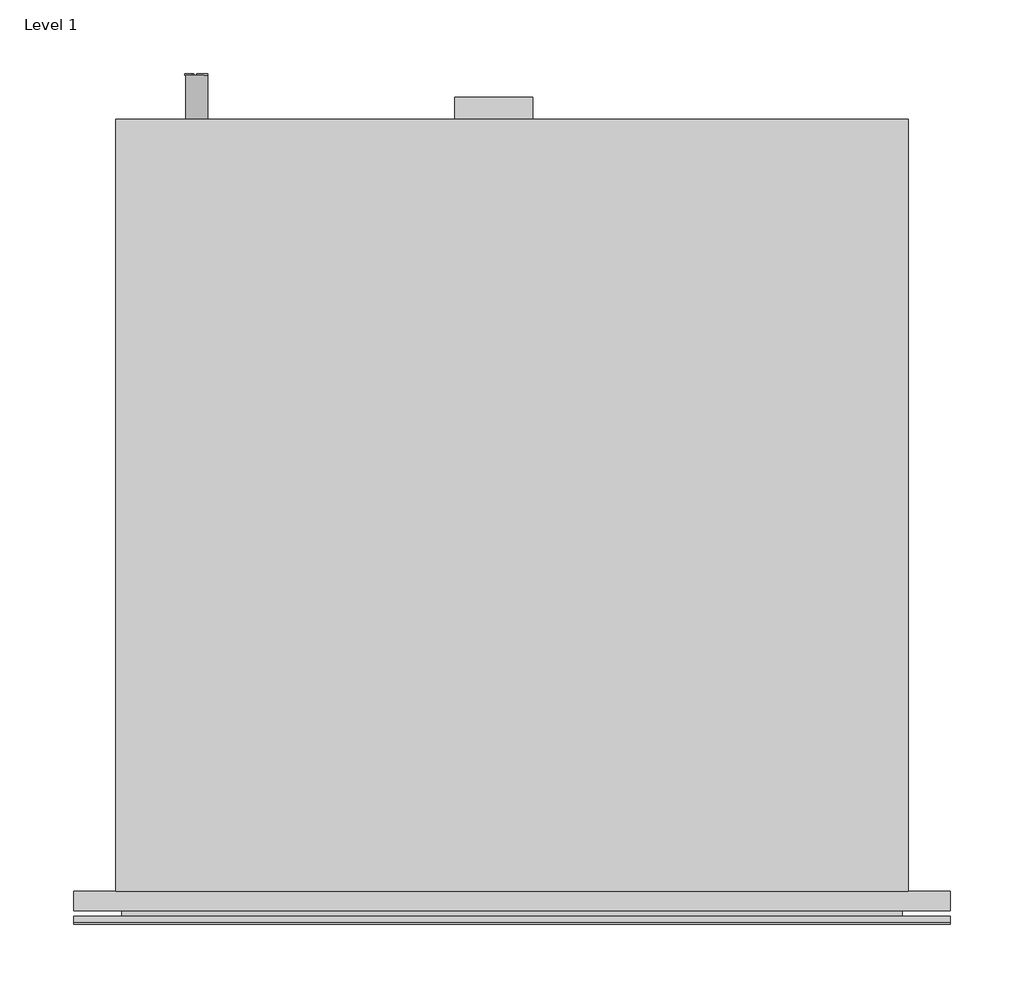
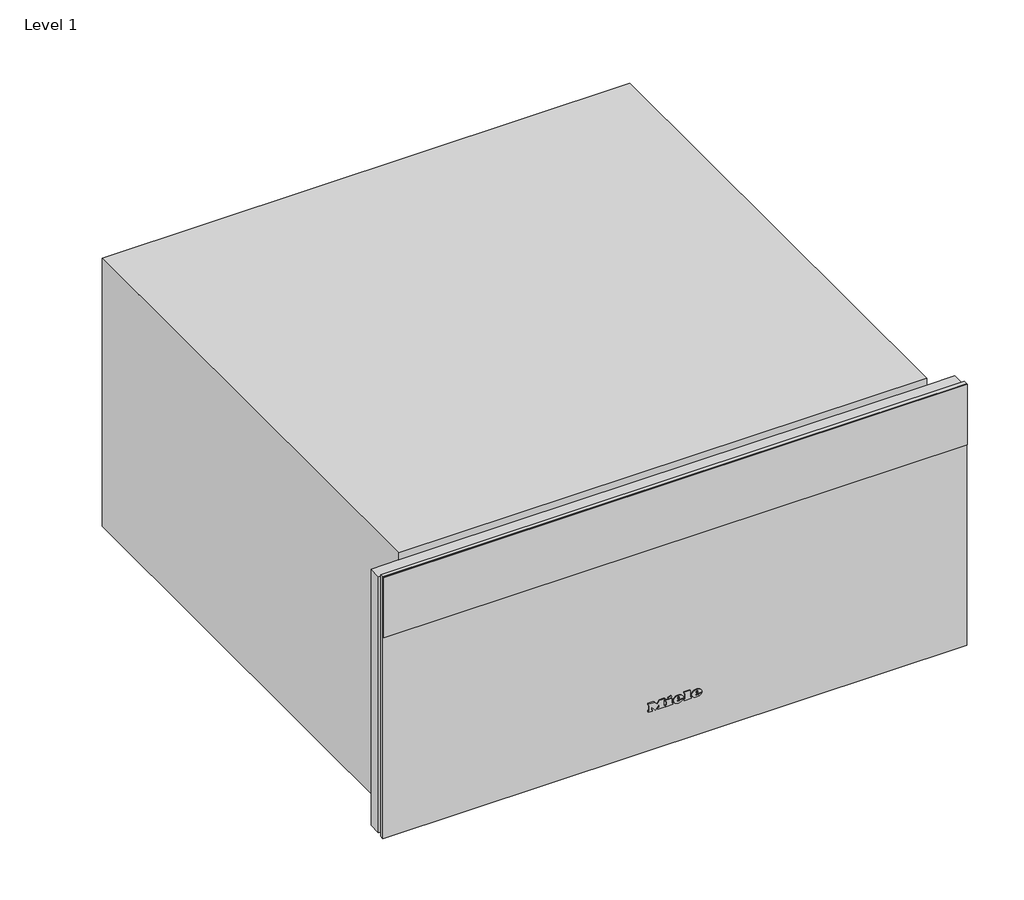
# One storey: 1 proxy.
"""IFC4 building model written with IfcOpenShell, lengths in millimetres."""

from ifc_helpers import new_model, si_unit, origin, place, context, project, spatial, transform, mapped, element, save
from components import specialty_equipment_abaaba5e

model = new_model("IFC4")

# Units and contexts
model_context = context("Model", 3, world=origin())
ifc_project = project(units=[si_unit("LENGTHUNIT", "METRE", prefix="MILLI")], contexts=[model_context])

# Site, building, storey
site = spatial("IfcSite", under=ifc_project)
building = spatial("IfcBuilding", under=site)
storey = spatial("IfcBuildingStorey", under=building, Name="Level 1", Elevation=0.0)

# Proxy
placement = place(None, origin())
specialty_equipment_shape = specialty_equipment_abaaba5e(model_context)
element("IfcBuildingElementProxy", 1, Name="11103150_D_ESW7020_EDST-CLST : 30702040_D_11103150_ESW7020_EDST-CLST", ObjectType="11103150_D_ESW7020_EDST-CLST : 30702040_D_11103150_ESW7020_EDST-CLST", at=placement, inside=storey, context=model_context, shape_type="MappedRepresentation", body=[
    mapped(specialty_equipment_shape, transform((0.0, 0.0, 0.0), x_axis=(1.0, 0.0, 0.0), y_axis=(0.0, 1.0, 0.0), z_axis=(0.0, 0.0, 1.0))),
])

save(model, "model.ifc")
